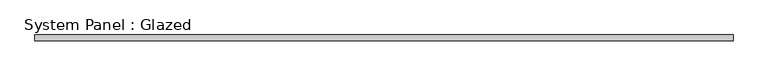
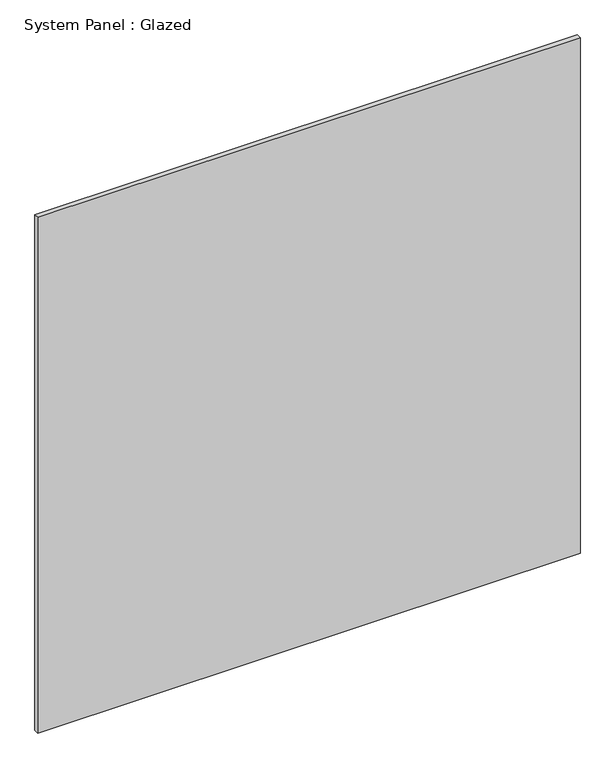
"""IFC4 building model written with IfcOpenShell, lengths in millimetres: plate geometry, System Panel : Glazed."""

import ifcopenshell
import ifcopenshell.guid

model = None  # the IFC model being written
_history = None  # IfcOwnerHistory: only IFC2X3 demands one
_inside = {}  # id of a spatial element -> (the spatial element, [elements in it])
_under = {}  # id of a project, library or spatial element -> (it, [spatial elements below it])
_declared = {}  # id of a project -> (the project, [libraries it declares])
_typed = {}  # id of a type object -> (the type object, [elements of that type])
_made_of = {}  # id of a material, layer set ... -> (it, [elements and type objects made of it])


def new_model(schema):
    """Start an empty IFC model of exactly this schema.

    Asked for "IFC4X3", IfcOpenShell would pick the latest addendum, in which some entities
    have other attributes; the version numbers below select the first issue.
    IFC2X3 requires an IfcOwnerHistory on every rooted entity: one is made here for all.
    """
    global model, _history
    if schema == "IFC4X3":
        model = ifcopenshell.file(schema_version=(4, 3, 0, 0))
    else:
        model = ifcopenshell.file(schema=schema)
    _inside.clear()
    _under.clear()
    _declared.clear()
    _typed.clear()
    _made_of.clear()
    _history = None
    if model.schema == "IFC2X3":
        org = make("IfcOrganization", Name="unknown")
        user = make(
            "IfcPersonAndOrganization",
            ThePerson=make("IfcPerson", FamilyName="unknown"),
            TheOrganization=org,
        )
        app = make(
            "IfcApplication",
            ApplicationDeveloper=org,
            Version="unknown",
            ApplicationFullName="unknown",
            ApplicationIdentifier="unknown",
        )
        _history = make(
            "IfcOwnerHistory",
            OwningUser=user,
            OwningApplication=app,
            ChangeAction="ADDED",
            CreationDate=0,
        )
    return model


def make(cls, **values):
    """One entity of the class cls with the attributes given. An attribute that is None is left unset."""
    return model.create_entity(
        cls, **{name: value for name, value in values.items() if value is not None}
    )


def rooted(cls, **values):
    """An entity with a GlobalId (a new one), such as an element, a storey or a relation."""
    return make(cls, GlobalId=ifcopenshell.guid.new(), OwnerHistory=_history, **values)


def si_unit(unit_type, name, prefix=None):
    """IfcSIUnit, for example si_unit("LENGTHUNIT", "METRE", prefix="MILLI")."""
    return make("IfcSIUnit", UnitType=unit_type, Prefix=prefix, Name=name)


def assignment(units):
    """IfcUnitAssignment: the units of a project."""
    return None if units is None else make("IfcUnitAssignment", Units=units)


def point(xyz):
    """IfcCartesianPoint."""
    return None if xyz is None else make("IfcCartesianPoint", Coordinates=xyz)


def direction(xyz):
    """IfcDirection."""
    return None if xyz is None else make("IfcDirection", DirectionRatios=xyz)


def frame(location, z_axis=None, x_axis=None):
    """IfcAxis2Placement3D, a coordinate frame: its origin and axes. An axis left out is left unset."""
    return make(
        "IfcAxis2Placement3D",
        Location=point(location),
        Axis=direction(z_axis),
        RefDirection=direction(x_axis),
    )


def origin():
    """The frame at (0, 0, 0) with its axes left unset."""
    return frame((0.0, 0.0, 0.0))


def origin_with_axes():
    """The frame at (0, 0, 0) with the z axis (0, 0, 1) and the x axis (1, 0, 0) written out."""
    return frame((0.0, 0.0, 0.0), z_axis=(0.0, 0.0, 1.0), x_axis=(1.0, 0.0, 0.0))


def place(relative_to, where):
    """IfcLocalPlacement: puts the frame where relative to a parent placement (None: the world)."""
    return make(
        "IfcLocalPlacement", PlacementRelTo=relative_to, RelativePlacement=where
    )


def context(
    kind, dimensions, precision=None, world=None, true_north=None, identifier=None
):
    """IfcGeometricRepresentationContext, for example the 3D "Model" context."""
    return make(
        "IfcGeometricRepresentationContext",
        ContextIdentifier=identifier,
        ContextType=kind,
        CoordinateSpaceDimension=dimensions,
        Precision=precision,
        WorldCoordinateSystem=world,
        TrueNorth=true_north,
    )


def project(units=None, contexts=None):
    """IfcProject with its units and contexts."""
    return rooted(
        "IfcProject",
        Name="project",
        RepresentationContexts=contexts,
        UnitsInContext=assignment(units),
    )


def spatial(cls, under=None, at=None, **own):
    """A site, building, storey or space (cls), placed at a placement, below another one or the project."""
    s = rooted(cls, ObjectPlacement=at, **own)
    if under is not None:
        _under.setdefault(under.id(), (under, []))[1].append(s)
    return s


def polyline(points):
    """IfcPolyline through the points."""
    return make("IfcPolyline", Points=[point(p) for p in points])


def outline(outer, holes=None, kind="AREA"):
    """IfcArbitraryClosedProfileDef: a profile drawn as a closed curve; with holes, ...WithVoids."""
    if holes is None:
        return make("IfcArbitraryClosedProfileDef", ProfileType=kind, OuterCurve=outer)
    return make(
        "IfcArbitraryProfileDefWithVoids",
        ProfileType=kind,
        OuterCurve=outer,
        InnerCurves=holes,
    )


def extrude(swept, where, along, depth):
    """IfcExtrudedAreaSolid: the profile swept, set in the frame where, extruded along a direction by depth."""
    return make(
        "IfcExtrudedAreaSolid",
        SweptArea=swept,
        Position=where,
        ExtrudedDirection=direction(along),
        Depth=depth,
    )


def shape(context_of_items, identifier, shape_type, items):
    """IfcShapeRepresentation: the items that make up one representation, for example the "Body"."""
    return make(
        "IfcShapeRepresentation",
        ContextOfItems=context_of_items,
        RepresentationIdentifier=identifier,
        RepresentationType=shape_type,
        Items=items,
    )


def source(mapping_origin, context_of_items, identifier, shape_type, items):
    """IfcRepresentationMap: a shape defined once, which mapped items show again and again."""
    return make(
        "IfcRepresentationMap",
        MappingOrigin=mapping_origin,
        MappedRepresentation=shape(context_of_items, identifier, shape_type, items),
    )


def transform(
    local_origin,
    x_axis=None,
    y_axis=None,
    z_axis=None,
    scale=None,
    scale2=None,
    scale3=None,
    uniform=True,
):
    """IfcCartesianTransformationOperator3D, or its non-uniform kind. x_axis, y_axis, z_axis: its Axis1, 2, 3."""
    if uniform:
        return make(
            "IfcCartesianTransformationOperator3D",
            Axis1=direction(x_axis),
            Axis2=direction(y_axis),
            LocalOrigin=point(local_origin),
            Scale=scale,
            Axis3=direction(z_axis),
        )
    return make(
        "IfcCartesianTransformationOperator3DnonUniform",
        Axis1=direction(x_axis),
        Axis2=direction(y_axis),
        LocalOrigin=point(local_origin),
        Scale=scale,
        Axis3=direction(z_axis),
        Scale2=scale2,
        Scale3=scale3,
    )


def mapped(mapping_source, mapping_target):
    """IfcMappedItem: shows the shape of a source again, moved by a transform."""
    return make(
        "IfcMappedItem", MappingSource=mapping_source, MappingTarget=mapping_target
    )


def made_of(thing, what):
    """Note that an element or type object is made of a material, layer set ...; save() writes the relation."""
    if what is not None:
        _made_of.setdefault(what.id(), (what, []))[1].append(thing)
    return thing


def element(
    cls,
    number,
    at=None,
    inside=None,
    cuts=None,
    type_object=None,
    material=None,
    context=None,
    identifier="Body",
    shape_type=None,
    held_by="IfcProductDefinitionShape",
    body=None,
    shapes=None,
    **own,
):
    """One element of the class cls, such as IfcWall. Its Tag is "e" and its number.

    at: its placement. inside: the storey or other place that contains it. cuts: it is an
    opening in that element (IfcRelVoidsElement). A single representation is given by context,
    identifier, shape_type and body (its items); several are given by shapes. held_by: the class
    of the entity that holds the representations. save() writes the other relations.
    """
    e = rooted(cls, Tag="e%d" % number, ObjectPlacement=at, **own)
    if body is not None:
        shapes = [shape(context, identifier, shape_type, body)]
    if shapes is not None:
        e.Representation = make(held_by, Representations=shapes)
    if inside is not None:
        _inside.setdefault(inside.id(), (inside, []))[1].append(e)
    if cuts is not None:
        rooted(
            "IfcRelVoidsElement", RelatingBuildingElement=cuts, RelatedOpeningElement=e
        )
    if type_object is not None:
        _typed.setdefault(type_object.id(), (type_object, []))[1].append(e)
    return made_of(e, material)


def aggregate(whole, parts):
    """IfcRelAggregates: a whole, such as a stair, and the parts it consists of."""
    return rooted("IfcRelAggregates", RelatingObject=whole, RelatedObjects=parts)


def save(model, path):
    """Write the relations noted so far, then the file.

    IfcRelAggregates (storeys below a building ...), IfcRelContainedInSpatialStructure (elements
    in a storey), IfcRelDefinesByType, IfcRelAssociatesMaterial and IfcRelDeclares: one each for
    every whole, place, type object, material and project.
    """
    for whole, parts in _under.values():
        aggregate(whole, parts)
    for where, things in _inside.values():
        rooted(
            "IfcRelContainedInSpatialStructure",
            RelatedElements=things,
            RelatingStructure=where,
        )
    for kind, things in _typed.values():
        rooted("IfcRelDefinesByType", RelatedObjects=things, RelatingType=kind)
    for what, things in _made_of.values():
        rooted("IfcRelAssociatesMaterial", RelatedObjects=things, RelatingMaterial=what)
    for by, libraries in _declared.values():
        rooted("IfcRelDeclares", RelatingContext=by, RelatedDefinitions=libraries)
    model.write(path)


def system_panel_glazed_3bf1a00e(model_context):
    return source(origin(), model_context, "Body", "SweptSolid", [
        extrude(outline(polyline([(1484.3125, 19.05), (-1484.3125, 19.05), (-1484.3125, 44.45), (1484.3125, 44.45), (1484.3125, 19.05)])), origin_with_axes(), (0.0, 0.0, 1.0), 2984.5),
    ])


if __name__ == "__main__":
    model = new_model("IFC4")
    model_context = context("Model", 3, world=origin())
    ifc_project = project(units=[si_unit("LENGTHUNIT", "METRE", prefix="MILLI")], contexts=[model_context])
    site = spatial("IfcSite", under=ifc_project)
    building = spatial("IfcBuilding", under=site)
    placement = place(None, origin())
    system_panel_glazed_shape = system_panel_glazed_3bf1a00e(model_context)
    element("IfcPlate", 1, ObjectType="System Panel : Glazed", at=placement, inside=building, context=model_context, shape_type="MappedRepresentation", body=[
        mapped(system_panel_glazed_shape, transform((0.0, 0.0, 0.0), x_axis=(1.0, 0.0, 0.0), y_axis=(0.0, 1.0, 0.0), z_axis=(0.0, 0.0, 1.0))),
    ])
    save(model, "model.ifc")
